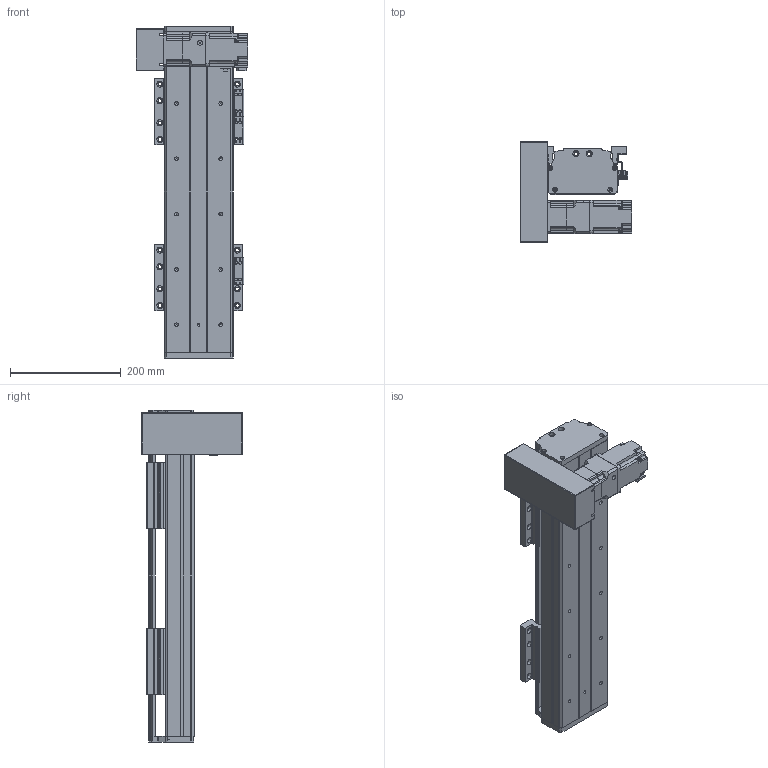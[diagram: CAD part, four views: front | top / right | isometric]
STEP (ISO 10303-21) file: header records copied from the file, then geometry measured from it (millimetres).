
FILE_DESCRIPTION(/* description */ (''),/* implementation_level */ '2;1');
FILE_NAME(/* name */ 'C:\Users\PC\Desktop\3D도면\STEP\DSB125-DL2G-W0300-R.stp',/* time_stamp */ '2018-06-21T14:46:37+09:00',/* author */ ('PC'),/* organization */ (''),/* preprocessor_version */ 'ST-DEVELOPER v16.5',/* originating_system */ 'Autodesk Inventor 2017',/* authorisation */ '');
FILE_SCHEMA (('AUTOMOTIVE_DESIGN { 1 0 10303 214 3 1 1 }'));
Length unit declared in the file: millimetre
Products named in the file (12): DSB125-L-300ST; DSR125-BASE(S-TYPE); DSR125-REAR COVER-R01(170203); DSR125-REAR COVER-R01(170203)_1; DSR125-UP COVER-R01(170203); hg-kr23_; ab0601-p0401200402; 13-BELT COVER; DSR126-SENSOR DOG; pm-y65_step; SENSOR BRACKET(EE-SX674A); DSR125-TABLE(MSA15X)
Assembly tree (16 placements, depth 2):
  DSB125-L-300ST
    DSR125-BASE(S-TYPE)
    DSR125-REAR COVER-R01(170203)
    DSR125-REAR COVER-R01(170203)_1
    DSR125-UP COVER-R01(170203)
    hg-kr23_
    ab0601-p0401200402
    13-BELT COVER
    DSR126-SENSOR DOG
    pm-y65_step  x3
    SENSOR BRACKET(EE-SX674A)  x3
    DSR125-TABLE(MSA15X)  x2
Bounding box: 202.1 x 182 x 600 mm (x, y, z)
Volume: 2855265.7 mm3; surface area: 827258.4 mm2
Topology: 17 solids, 22 shells, 1645 faces, 4461 edges, 2946 vertices
Faces by surface type: plane 908, cylinder 623, cone 102, sphere 8, torus 4
Full cylindrical faces by diameter (mm): 2.459 x20, 3.242 x16, 3.5 x6, 4 x1, 4.134 x16, 4.2 x4, 4.3 x1, 4.5 x50, 4.917 x20, 5 x27, 5.3 x1, 5.5 x4, 5.6 x8, 5.8 x4, 5.9 x8, 6 x4, 6.6 x22, 6.647 x12, 7.5 x32, 8.5 x8, 8.7 x1, 11 x22, 14 x1, 16 x2, 17 x1, 20 x1, 47 x1, 50 x3
Entity records: 35030 total; most frequent: CARTESIAN_POINT 6451, DIRECTION 6060, ORIENTED_EDGE 5446, EDGE_CURVE 2728, AXIS2_PLACEMENT_3D 2218, VERTEX_POINT 1937, EDGE_LOOP 1641, LINE 1624
